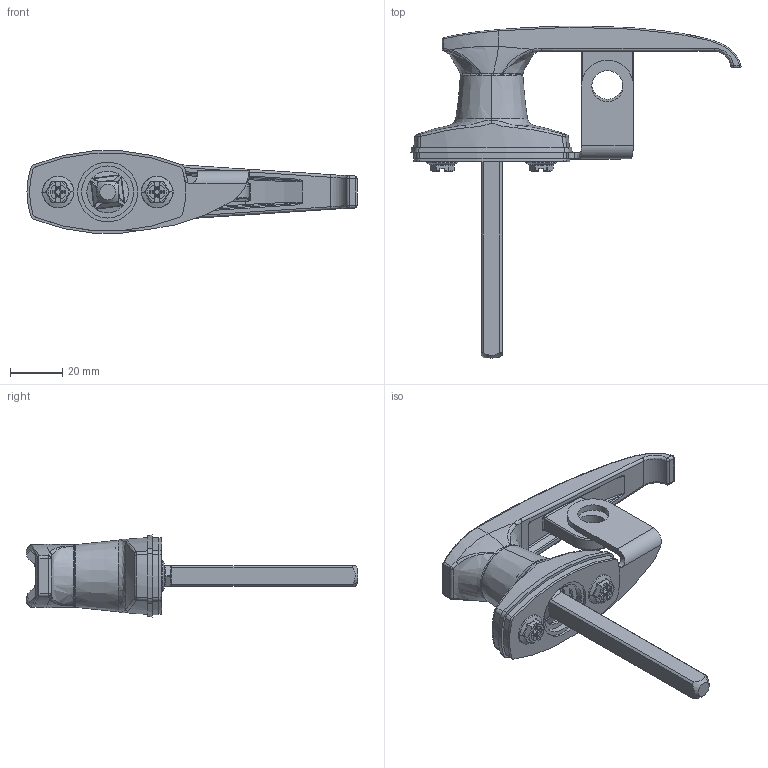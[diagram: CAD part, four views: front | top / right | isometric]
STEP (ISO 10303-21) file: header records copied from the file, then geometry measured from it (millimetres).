
FILE_DESCRIPTION((''),'2;1');
FILE_NAME('PRT0007','2026-02-03T11:41:57',('Administrator'),(''),'CREO PARAMETRIC BY PTC INC, 2023073','CREO PARAMETRIC BY PTC INC, 2023073','');
FILE_SCHEMA(('CONFIG_CONTROL_DESIGN'));
Products named in the file (1): PRT0007
Bounding box: 126.87 x 127.61 x 31.57 mm (x, y, z)
Surface area: 37311.2 mm2 (no closed solid volume)
Topology: 0 solids, 16 shells, 1505 faces, 3723 edges, 2253 vertices
Faces by surface type: bspline 459, plane 392, cylinder 378, sphere 102, cone 100, torus 73, extrusion 1
Entity records: 64696 total; most frequent: CARTESIAN_POINT 32824, ORIENTED_EDGE 7434, DIRECTION 5545, EDGE_CURVE 3717, VERTEX_POINT 2253, AXIS2_PLACEMENT_3D 2198, EDGE_LOOP 1556, FACE_OUTER_BOUND 1505
